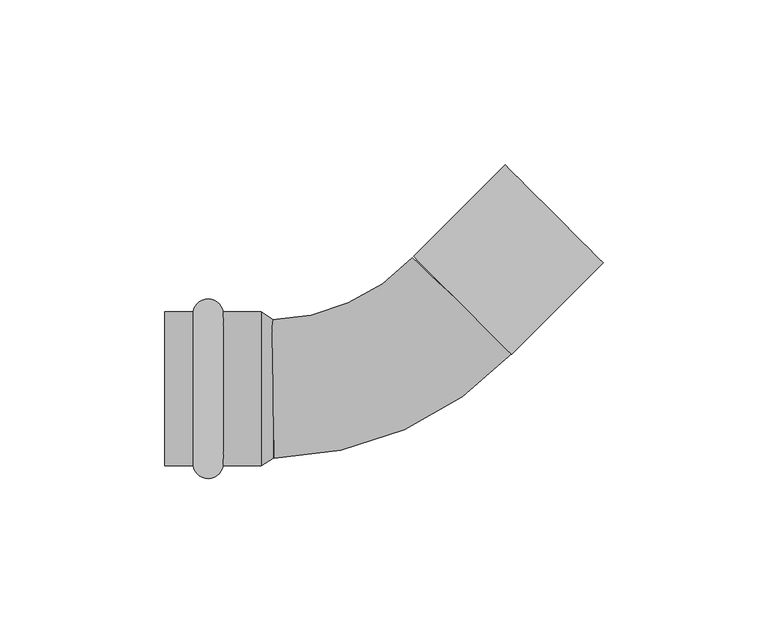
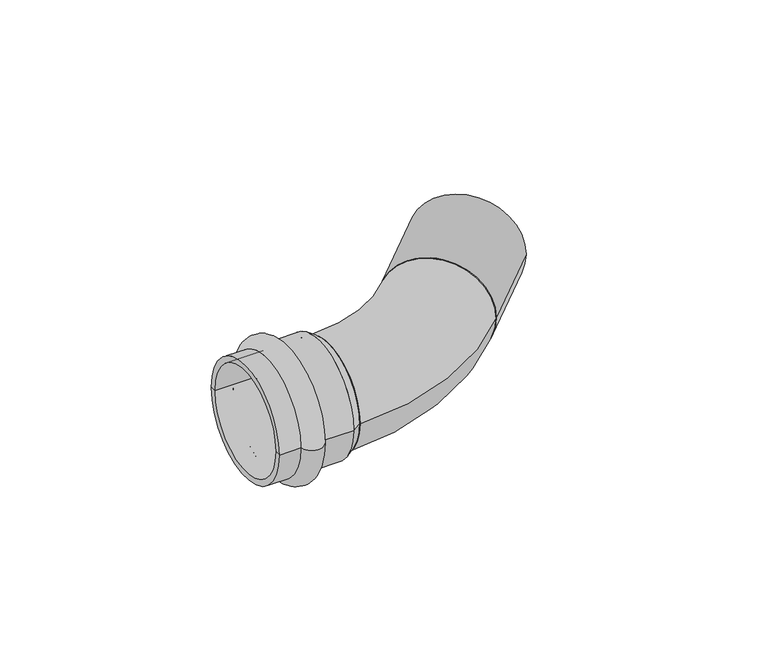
"""IFC4 building model written with IfcOpenShell, lengths in millimetres: pipe fitting geometry, VALTEC_VTi.958.I_Угольник 45° (раструб–труба) нержавеющая сталь. : VTi.958.I."""

from ifc_helpers import new_model, si_unit, point, frame, origin, origin_2d, place, context, project, spatial, polyline, circle_curve, ellipse_curve, trimmed, segment, composite_curve, outline, extrude, source, transform, mapped, element, save
from ifc_brep_helpers import plane_surface, cylinder_surface, revolved_surface, advanced_brep


def pipe_fitting_da9ec880(model_context):
    return source(origin(), model_context, "Body", "SolidModel", [
        advanced_brep(
        [(-56.4464272, -23.35, 0.0), (-56.4464272, 23.35, 0.0), (-47.3535728, 23.35, 0.0), (-47.3535728, -23.35, 0.0), (-65.0, -23.35, 0.0), (-65.0, 23.35, 0.0), (-65.0, -21.0, 0.0), (-65.0, 21.0, 0.0), (-35.75, -21.0, 0.0), (-35.75, 21.0, 0.0), (-35.75, -23.35, 0.0), (-35.75, 23.35, 0.0)],
        [
            (0, 1, circle_curve(frame((-56.4464272, 0.0, 0.0), z_axis=(1.0, 0.0, 0.0), x_axis=(0.0, 1.0, 0.0)), 23.35)),
            (1, 2, circle_curve(frame((-51.9, 22.65, 0.0), z_axis=(0.0, 0.0, -1.0), x_axis=(1.0, 0.0, 0.0)), 4.6)),
            (2, 3, circle_curve(frame((-47.3535728, 0.0, 0.0), z_axis=(-1.0, 0.0, 0.0), x_axis=(0.0, 1.0, 0.0)), 23.35)),
            (3, 0, circle_curve(frame((-51.9, -22.65, 0.0), z_axis=(0.0, 0.0, -1.0), x_axis=(1.0, 0.0, 0.0)), 4.6)),
            (1, 0, circle_curve(frame((-56.4464272, 0.0, 0.0), z_axis=(1.0, 0.0, 0.0), x_axis=(0.0, 1.0, 0.0)), 23.35)),
            (3, 2, circle_curve(frame((-47.3535728, 0.0, 0.0), z_axis=(-1.0, 0.0, 0.0), x_axis=(0.0, 1.0, 0.0)), 23.35)),
            (4, 5, circle_curve(frame((-65.0, 0.0, 0.0), z_axis=(1.0, 0.0, 0.0), x_axis=(0.0, 1.0, 0.0)), 23.35)),
            (5, 1),
            (0, 4),
            (5, 4, circle_curve(frame((-65.0, 0.0, 0.0), z_axis=(1.0, 0.0, 0.0), x_axis=(0.0, 1.0, 0.0)), 23.35)),
            (6, 7, circle_curve(frame((-65.0, 0.0, 0.0), z_axis=(1.0, 0.0, 0.0), x_axis=(0.0, 1.0, 0.0)), 21.0)),
            (7, 5),
            (4, 6),
            (7, 6, circle_curve(frame((-65.0, 0.0, 0.0), z_axis=(1.0, 0.0, 0.0), x_axis=(0.0, 1.0, 0.0)), 21.0)),
            (8, 9, circle_curve(frame((-35.75, 0.0, 0.0), z_axis=(1.0, 0.0, 0.0), x_axis=(0.0, 1.0, 0.0)), 21.0)),
            (9, 7),
            (6, 8),
            (9, 8, circle_curve(frame((-35.75, 0.0, 0.0), z_axis=(1.0, 0.0, 0.0), x_axis=(0.0, 1.0, 0.0)), 21.0)),
            (10, 11, circle_curve(frame((-35.75, 0.0, 0.0), z_axis=(1.0, 0.0, 0.0), x_axis=(0.0, 1.0, 0.0)), 23.35)),
            (11, 9),
            (8, 10),
            (11, 10, circle_curve(frame((-35.75, 0.0, 0.0), z_axis=(1.0, 0.0, 0.0), x_axis=(0.0, 1.0, 0.0)), 23.35)),
            (2, 11),
            (10, 3),
        ],
        [
            revolved_surface(trimmed(ellipse_curve(frame((-51.9, 22.65, 0.0), z_axis=(0.0, 0.0, 1.0), x_axis=(1.0, 0.0, 0.0)), 4.6, 4.6), [point((-47.3535728, 23.35, 0.0))], [point((-56.4464272, 23.35, 0.0))], True, "CARTESIAN"), (-68.5364426, 0.0, 0.0), (-1.0, 0.0, 0.0)),
            cylinder_surface(frame((-68.5364426, 0.0, 0.0), z_axis=(-1.0, 0.0, 0.0), x_axis=(0.0, 1.0, 0.0)), 23.35),
            plane_surface(frame((-65.0, 0.0, 0.0), z_axis=(-1.0, 0.0, 0.0), x_axis=(0.0, 1.0, 0.0))),
            revolved_surface(polyline([(-65.0, 21.0, 0.0), (-35.75, 21.0, 0.0)]), (-68.5364426, 0.0, 0.0), (-1.0, 0.0, 0.0)),
            plane_surface(frame((-35.75, 0.0, 0.0), z_axis=(1.0, 0.0, 0.0), x_axis=(0.0, 1.0, 0.0))),
        ],
        [
            (0, [[1, 2, 3, 4]]),
            (0, [[5, -4, 6, -2]]),
            (1, [[7, 8, -1, 9]]),
            (1, [[10, -9, -5, -8]]),
            (2, [[11, 12, -7, 13]]),
            (2, [[14, -13, -10, -12]]),
            (3, [[15, 16, -11, 17]]),
            (3, [[18, -17, -14, -16]]),
            (4, [[19, 20, -15, 21]]),
            (4, [[22, -21, -18, -20]]),
            (1, [[-3, 23, -19, 24]]),
            (1, [[-6, -24, -22, -23]]),
        ],
    ),
        extrude(outline(composite_curve([segment(trimmed(circle_curve(origin_2d(), 21.0), [point((0.0, -21.0))], [point((0.0, 21.0))], False, "CARTESIAN"), True, "CONTINUOUS"), segment(trimmed(circle_curve(origin_2d(), 21.0), [point((0.0, 21.0))], [point((0.0, -21.0))], False, "CARTESIAN"), True, "CONTINUOUS")], self_intersect=False)), frame((25.2790674, 25.2790674, 0.0), z_axis=(0.7071067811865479, 0.7071067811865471, 0.0), x_axis=(0.0, 0.0, 1.0)), (0.0, 0.0, 1.0), 39.25),
        advanced_brep(
        [(-31.8486424, -20.9974639, 0.0), (-32.5013576, 20.9974639, 0.0), (40.5389792, 10.8521796, 0.0), (10.0191556, 39.7059552, 0.0)],
        [
            (0, 1, circle_curve(frame((-32.175, 0.0, 0.0), z_axis=(-0.9998792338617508, -0.015540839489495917, 0.0), x_axis=(-0.015540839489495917, 0.9998792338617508, 0.0)), 21.0)),
            (1, 0, circle_curve(frame((-32.175, 0.0, 0.0), z_axis=(-0.9998792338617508, -0.015540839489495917, 0.0), x_axis=(-0.015540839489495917, 0.9998792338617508, 0.0)), 21.0)),
            (2, 3, circle_curve(frame((25.2790674, 25.2790674, 0.0), z_axis=(0.6869946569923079, 0.7266624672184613, 0.0), x_axis=(-0.7266624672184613, 0.6869946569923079, 0.0)), 21.0)),
            (3, 2, circle_curve(frame((25.2790674, 25.2790674, 0.0), z_axis=(0.6869946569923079, 0.7266624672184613, 0.0), x_axis=(-0.7266624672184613, 0.6869946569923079, 0.0)), 21.0)),
            (3, 1, circle_curve(frame((-33.4306002, 80.7838303, 0.0), z_axis=(0.0, 0.0, -1.0), x_axis=(0.015540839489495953, -0.9998792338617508, 0.0)), 59.7935875)),
            (0, 2, circle_curve(frame((-33.4306002, 80.7838303, 0.0), z_axis=(0.0, 0.0, 1.0), x_axis=(0.015540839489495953, -0.9998792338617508, 0.0)), 101.7935875)),
        ],
        [
            plane_surface(frame((-32.175, 0.0, 0.0), z_axis=(-0.9998792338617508, -0.015540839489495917, 0.0), x_axis=(0.0, 0.0, 1.0))),
            plane_surface(frame((25.2790674, 25.2790674, 0.0), z_axis=(0.686994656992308, 0.7266624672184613, 0.0), x_axis=(0.0, 0.0, 1.0))),
            revolved_surface(trimmed(ellipse_curve(frame((-32.175, 0.0, 0.0), z_axis=(-0.9998792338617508, -0.015540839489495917, 0.0), x_axis=(-0.015540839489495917, 0.9998792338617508, 0.0)), 21.0, 21.0), [point((-31.8486424, -20.9974639, 0.0))], [point((-32.5013576, 20.9974639, 0.0))], True, "CARTESIAN"), (-33.4306002, 80.7838303, 0.0), (0.0, 0.0, 1.0)),
            revolved_surface(trimmed(ellipse_curve(frame((-32.175, 0.0, 0.0), z_axis=(-0.9998792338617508, -0.015540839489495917, 0.0), x_axis=(-0.015540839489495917, 0.9998792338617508, 0.0)), 21.0, 21.0), [point((-32.5013576, 20.9974639, 0.0))], [point((-31.8486424, -20.9974639, 0.0))], True, "CARTESIAN"), (-33.4306002, 80.7838303, 0.0), (0.0, 0.0, 1.0)),
        ],
        [
            (0, [[1, 2]]),
            (1, [[3, 4]]),
            (2, [[5, -1, 6, -4]]),
            (3, [[-6, -2, -5, -3]]),
        ],
    ),
        advanced_brep(
        [(-35.75, -23.35, 0.0), (-35.75, 23.35, 0.0), (-32.175, -21.0, 0.0), (-32.175, 21.0, 0.0)],
        [
            (0, 1, circle_curve(frame((-35.75, 0.0, 0.0), z_axis=(-1.0, 0.0, 0.0), x_axis=(0.0, -1.0, 0.0)), 23.35)),
            (1, 0, circle_curve(frame((-35.75, 0.0, 0.0), z_axis=(-1.0, 0.0, 0.0), x_axis=(0.0, 1.0, 0.0)), 23.35)),
            (2, 3, circle_curve(frame((-32.175, 0.0, 0.0), z_axis=(1.0, 0.0, 0.0), x_axis=(0.0, 1.0, 0.0)), 21.0)),
            (3, 2, circle_curve(frame((-32.175, 0.0, 0.0), z_axis=(1.0, 0.0, 0.0), x_axis=(0.0, -1.0, 0.0)), 21.0)),
            (2, 0),
            (1, 3),
        ],
        [
            plane_surface(frame((-35.75, 0.0, 0.0), z_axis=(-1.0, 0.0, 0.0), x_axis=(0.0, 0.0, -1.0))),
            plane_surface(frame((-32.175, 0.0, 0.0), z_axis=(1.0, 0.0, 0.0), x_axis=(0.0, 0.0, -1.0))),
            revolved_surface(polyline([(-32.175, -20.999999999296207, 0.0), (-35.75, -23.35, 0.0)]), (-0.2281915, 0.0, 0.0), (-1.0, 0.0, 0.0)),
            revolved_surface(polyline([(-32.175, 20.999999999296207, 0.0), (-35.75, 23.35, 0.0)]), (-0.2281915, 0.0, 0.0), (-1.0, 0.0, 0.0)),
        ],
        [
            (0, [[1, 2]]),
            (1, [[3, 4]]),
            (2, [[-3, 5, -2, 6]]),
            (3, [[-4, -6, -1, -5]]),
        ],
    ),
    ])


if __name__ == "__main__":
    model = new_model("IFC4")
    model_context = context("Model", 3, world=origin())
    ifc_project = project(units=[si_unit("LENGTHUNIT", "METRE", prefix="MILLI")], contexts=[model_context])
    site = spatial("IfcSite", under=ifc_project)
    building = spatial("IfcBuilding", under=site)
    placement = place(None, origin())
    pipe_fitting_shape = pipe_fitting_da9ec880(model_context)
    element("IfcPipeFitting", 1, ObjectType="VALTEC_VTi.958.I_Угольник 45° (раструб–труба) нержавеющая сталь. : VTi.958.I", at=placement, inside=building, context=model_context, shape_type="MappedRepresentation", body=[
        mapped(pipe_fitting_shape, transform((0.0, 0.0, 0.0), x_axis=(1.0, 0.0, 0.0), y_axis=(0.0, 1.0, 0.0), z_axis=(0.0, 0.0, 1.0))),
    ])
    save(model, "model.ifc")
